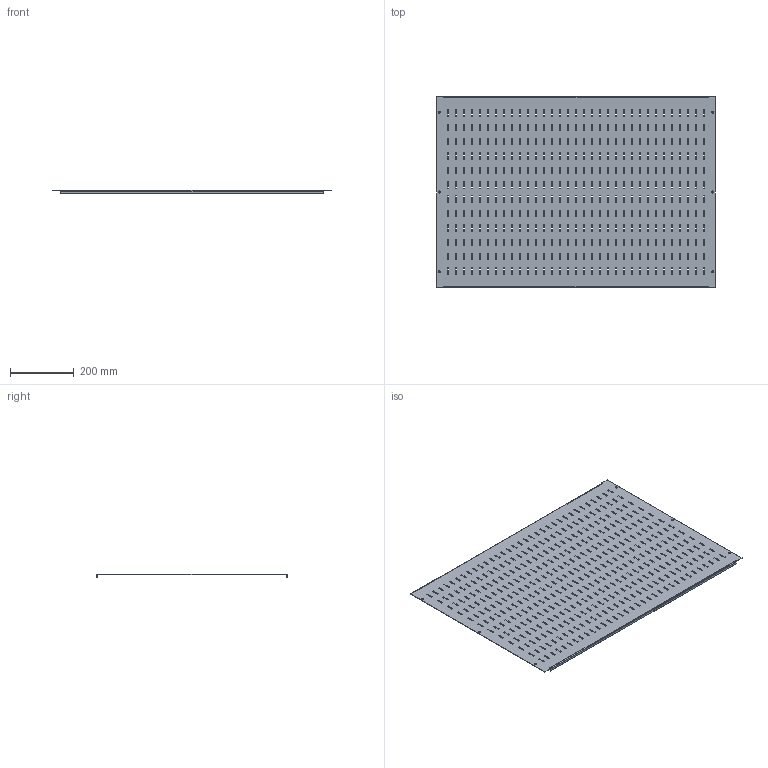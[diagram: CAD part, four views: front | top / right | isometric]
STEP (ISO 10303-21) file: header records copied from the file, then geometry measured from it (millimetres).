
FILE_DESCRIPTION(('STEP AP203'), '1');
FILE_NAME('Ïëàñòðîí ïåðôîðèðîâàííûé 600õ1000 ìì OptiBox M 419467 ÊÝÀÇ', '', ('UNSPECIFIED'), ('UNSPECIFIED'), 'C3D Converter', 'C3D Toolkit', '');
FILE_SCHEMA(('CONFIG_CONTROL_DESIGN'));
Length unit declared in the file: millimetre
Bounding box: 872 x 597 x 10 mm (x, y, z)
Volume: 701492 mm3; surface area: 1033100.1 mm2
Topology: 1 solids, 1 shells, 1624 faces, 4850 edges, 3228 vertices
Faces by surface type: plane 1614, cylinder 10
Full cylindrical faces by diameter (mm): 6.3 x6
Entity records: 55044 total; most frequent: CARTESIAN_POINT 9697, ORIENTED_EDGE 9688, DIRECTION 8114, EDGE_CURVE 4844, LINE 4824, VECTOR 4824, VERTEX_POINT 3228, EDGE_LOOP 2434
